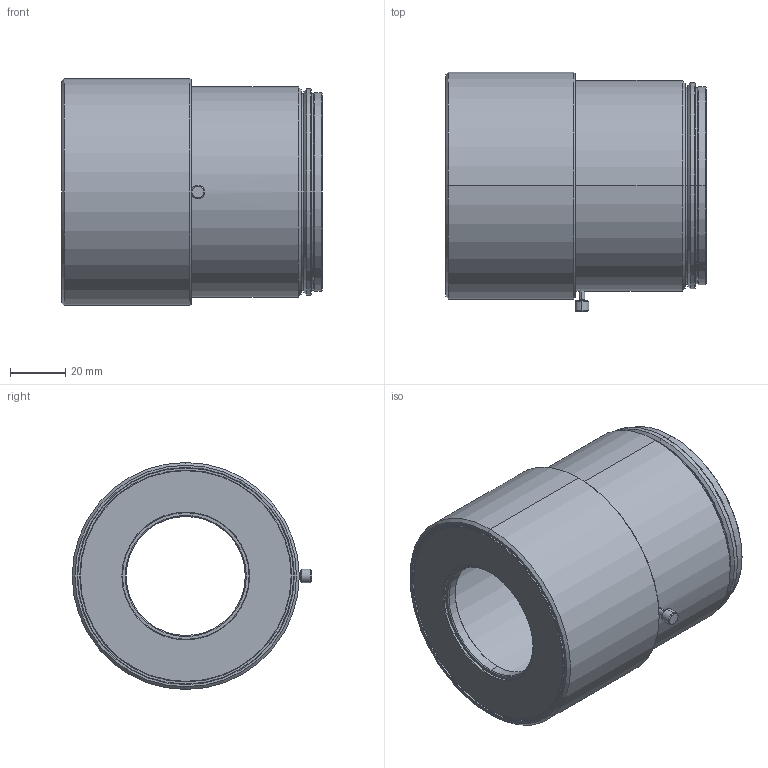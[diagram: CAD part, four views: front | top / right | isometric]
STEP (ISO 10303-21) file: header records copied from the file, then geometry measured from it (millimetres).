
FILE_DESCRIPTION (( 'STEP AP203' ), '1' );
FILE_NAME ('VS-FR32.STEP', '2019-08-25T11:48:39', ( '' ), ( '' ), 'SwSTEP 2.0', 'SolidWorks 2018', '' );
FILE_SCHEMA (( 'CONFIG_CONTROL_DESIGN' ));
Length unit declared in the file: millimetre
Products named in the file (1): VS-FR32
Bounding box: 94.7 x 87.05 x 82.5 mm (x, y, z)
Volume: 134095.5 mm3; surface area: 109442.9 mm2
Topology: 2 solids, 2 shells, 116 faces, 232 edges, 136 vertices
Faces by surface type: cone 50, cylinder 42, plane 20, torus 4
Entity records: 3117 total; most frequent: DIRECTION 602, CARTESIAN_POINT 517, ORIENTED_EDGE 464, AXIS2_PLACEMENT_3D 255, EDGE_CURVE 232, CIRCLE 138, EDGE_LOOP 136, VERTEX_POINT 136
